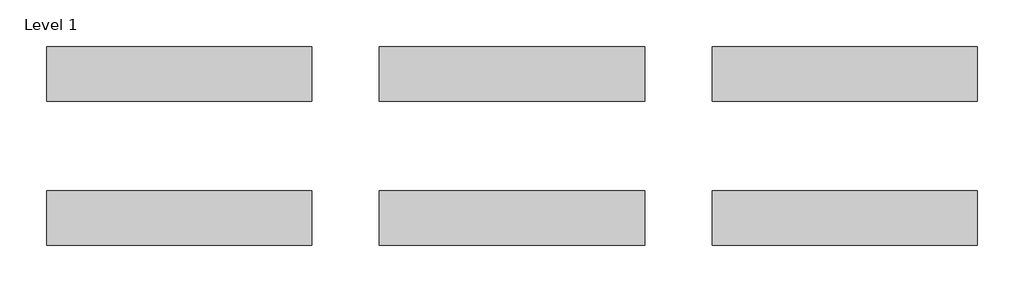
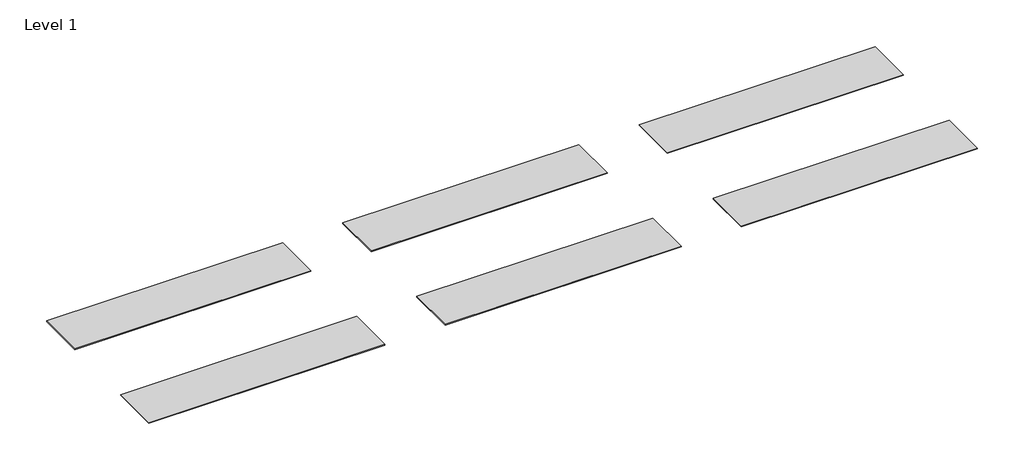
# One storey: 6 proxies.
"""IFC4 building model written with IfcOpenShell, lengths in millimetres."""

from ifc_helpers import new_model, si_unit, origin, place, context, project, spatial, transform, mapped, element, save
from components import generic_models_7f56e2ab

model = new_model("IFC4")

# Units and contexts
model_context = context("Model", 3, world=origin())
ifc_project = project(units=[si_unit("LENGTHUNIT", "METRE", prefix="MILLI")], contexts=[model_context])

# Site, building, storey
site = spatial("IfcSite", under=ifc_project)
building = spatial("IfcBuilding", under=site)
storey = spatial("IfcBuildingStorey", under=building, Name="Level 1", Elevation=0.0)

# Proxies
placement = place(None, origin())
generic_models_shape = generic_models_7f56e2ab(model_context)
element("IfcBuildingElementProxy", 1, Name="Indoor-Material_HIMACS_Terrazzo : Natural-Acrylic-Stone_HIMACS_Terrazzo_Classico-12mm", ObjectType="Indoor-Material_HIMACS_Terrazzo : Natural-Acrylic-Stone_HIMACS_Terrazzo_Classico-12mm", at=placement, inside=storey, context=model_context, shape_type="MappedRepresentation", body=[
    mapped(generic_models_shape, transform((-25932.0748674, 4227.8111796, 0.0), x_axis=(1.0, 0.0, 0.0), y_axis=(0.0, 1.0, 0.0), z_axis=(0.0, 0.0, 1.0))),
])
element("IfcBuildingElementProxy", 2, Name="Indoor-Material_HIMACS_Terrazzo : Natural-Acrylic-Stone_HIMACS_Terrazzo_Ulivo-12mm", ObjectType="Indoor-Material_HIMACS_Terrazzo : Natural-Acrylic-Stone_HIMACS_Terrazzo_Ulivo-12mm", at=placement, inside=storey, context=model_context, shape_type="MappedRepresentation", body=[
    mapped(generic_models_shape, transform((-21311.8590579, 4227.8111796, 0.0), x_axis=(1.0, 0.0, 0.0), y_axis=(0.0, 1.0, 0.0), z_axis=(0.0, 0.0, 1.0))),
])
element("IfcBuildingElementProxy", 3, Name="Indoor-Material_HIMACS_Terrazzo : Natural-Acrylic-Stone_HIMACS_Terrazzo_Nuvola-12mm", ObjectType="Indoor-Material_HIMACS_Terrazzo : Natural-Acrylic-Stone_HIMACS_Terrazzo_Nuvola-12mm", at=placement, inside=storey, context=model_context, shape_type="MappedRepresentation", body=[
    mapped(generic_models_shape, transform((-16691.6432484, 4227.8111796, 0.0), x_axis=(1.0, 0.0, 0.0), y_axis=(0.0, 1.0, 0.0), z_axis=(0.0, 0.0, 1.0))),
])
element("IfcBuildingElementProxy", 4, Name="Indoor-Material_HIMACS_Terrazzo : Natural-Acrylic-Stone_HIMACS_Terrazzo_Sorrento-12mm", ObjectType="Indoor-Material_HIMACS_Terrazzo : Natural-Acrylic-Stone_HIMACS_Terrazzo_Sorrento-12mm", at=placement, inside=storey, context=model_context, shape_type="MappedRepresentation", body=[
    mapped(generic_models_shape, transform((-25932.0748674, 2227.8111796, 0.0), x_axis=(1.0, 0.0, 0.0), y_axis=(0.0, 1.0, 0.0), z_axis=(0.0, 0.0, 1.0))),
])
element("IfcBuildingElementProxy", 5, Name="Indoor-Material_HIMACS_Terrazzo : Natural-Acrylic-Stone_HIMACS_Terrazzo_Marsala-12mm", ObjectType="Indoor-Material_HIMACS_Terrazzo : Natural-Acrylic-Stone_HIMACS_Terrazzo_Marsala-12mm", at=placement, inside=storey, context=model_context, shape_type="MappedRepresentation", body=[
    mapped(generic_models_shape, transform((-21311.8590579, 2227.8111796, 0.0), x_axis=(1.0, 0.0, 0.0), y_axis=(0.0, 1.0, 0.0), z_axis=(0.0, 0.0, 1.0))),
])
element("IfcBuildingElementProxy", 6, Name="Indoor-Material_HIMACS_Terrazzo : Natural-Acrylic-Stone_HIMACS_Terrazzo_Selva-12mm", ObjectType="Indoor-Material_HIMACS_Terrazzo : Natural-Acrylic-Stone_HIMACS_Terrazzo_Selva-12mm", at=placement, inside=storey, context=model_context, shape_type="MappedRepresentation", body=[
    mapped(generic_models_shape, transform((-16691.6432484, 2227.8111796, 0.0), x_axis=(1.0, 0.0, 0.0), y_axis=(0.0, 1.0, 0.0), z_axis=(0.0, 0.0, 1.0))),
])

save(model, "model.ifc")
